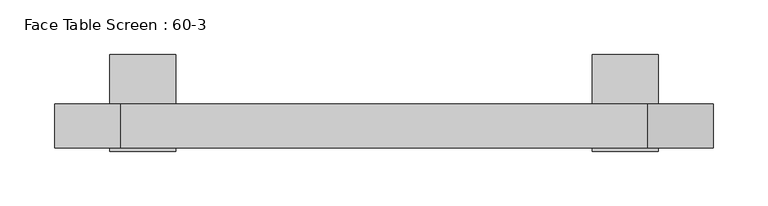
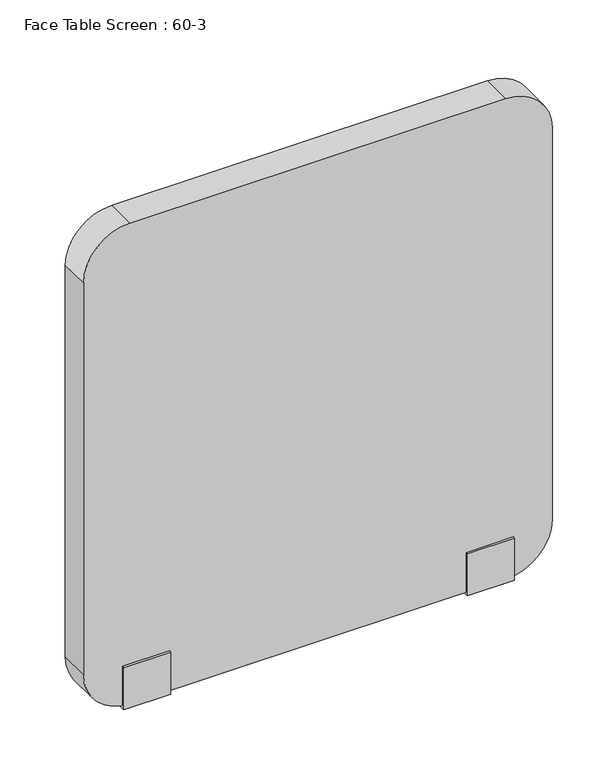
"""IFC4 building model written with IfcOpenShell, lengths in millimetres: furniture geometry, Face Table Screen : 60-3."""

from ifc_helpers import new_model, si_unit, point, frame, frame_2d, origin, place, context, project, spatial, polyline, circle_curve, trimmed, segment, composite_curve, outline, extrude, source, transform, mapped, element, save


def face_table_screen_60_3_c9fd3a59(model_context):
    return source(origin(), model_context, "Body", "SweptSolid", [
        extrude(outline(polyline([(-22.9999947, -256.0), (-22.9999997, -199.0433898), (-20.0, -199.0433898), (-20.0, -253.0), (20.0, -253.0), (20.0, -22.0), (65.0, -22.0), (65.0, -25.0433898), (23.0000062, -25.0433898), (22.9999947, -256.0), (-22.9999947, -256.0)])), frame((190.0, 0.0, 0.0), z_axis=(1.0, 0.0, 0.0), x_axis=(0.0, 1.0, 0.0)), (0.0, 0.0, 1.0), 60.0),
        extrude(outline(polyline([(-22.9999947, -256.0), (-22.9999997, -199.0433898), (-20.0, -199.0433898), (-20.0, -253.0), (20.0, -253.0), (20.0, -22.0), (65.0, -22.0), (65.0, -25.0433898), (23.0000062, -25.0433898), (22.9999947, -256.0), (-22.9999947, -256.0)])), frame((-250.0, 0.0, 0.0), z_axis=(1.0, 0.0, 0.0), x_axis=(0.0, 1.0, 0.0)), (0.0, 0.0, 1.0), 60.0),
        extrude(outline(composite_curve([segment(polyline([(397.0, 240.0), (397.0, -240.0)]), True, "CONTINUOUS"), segment(trimmed(circle_curve(frame_2d((337.0, -240.0)), 60.0), [point((397.0, -240.0))], [point((337.0, -300.0))], False, "CARTESIAN"), True, "CONTINUOUS"), segment(polyline([(337.0, -300.0), (-193.0, -300.0)]), True, "CONTINUOUS"), segment(trimmed(circle_curve(frame_2d((-193.0, -240.0)), 60.0), [point((-193.0, -300.0))], [point((-253.0, -240.0))], False, "CARTESIAN"), True, "CONTINUOUS"), segment(polyline([(-253.0, -240.0), (-253.0, 240.0)]), True, "CONTINUOUS"), segment(trimmed(circle_curve(frame_2d((-193.0, 240.0)), 60.0), [point((-253.0, 240.0))], [point((-193.0, 300.0))], False, "CARTESIAN"), True, "CONTINUOUS"), segment(polyline([(-193.0, 300.0), (337.0, 300.0)]), True, "CONTINUOUS"), segment(trimmed(circle_curve(frame_2d((337.0, 240.0)), 60.0), [point((337.0, 300.0))], [point((397.0, 240.0))], False, "CARTESIAN"), True, "CONTINUOUS")], self_intersect=False)), frame((0.0, -20.0, 0.0), z_axis=(0.0, 1.0, 0.0), x_axis=(0.0, 0.0, 1.0)), (0.0, 0.0, 1.0), 40.0),
    ])


if __name__ == "__main__":
    model = new_model("IFC4")
    model_context = context("Model", 3, world=origin())
    ifc_project = project(units=[si_unit("LENGTHUNIT", "METRE", prefix="MILLI")], contexts=[model_context])
    site = spatial("IfcSite", under=ifc_project)
    building = spatial("IfcBuilding", under=site)
    placement = place(None, origin())
    face_table_screen_60_3_shape = face_table_screen_60_3_c9fd3a59(model_context)
    element("IfcFurniture", 1, ObjectType="Face Table Screen : 60-3", at=placement, inside=building, context=model_context, shape_type="MappedRepresentation", body=[
        mapped(face_table_screen_60_3_shape, transform((0.0, 0.0, 0.0), x_axis=(1.0, 0.0, 0.0), y_axis=(0.0, 1.0, 0.0), z_axis=(0.0, 0.0, 1.0))),
    ])
    save(model, "model.ifc")
